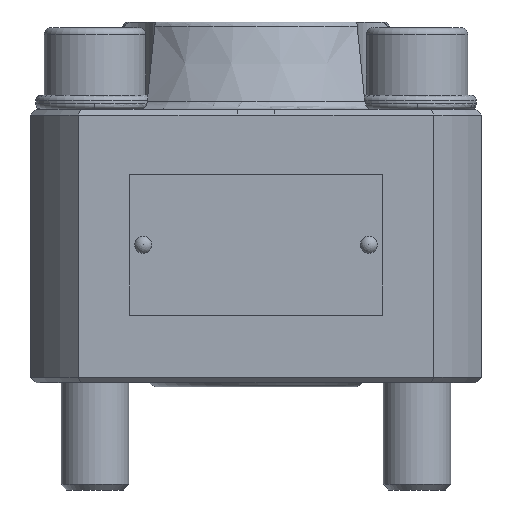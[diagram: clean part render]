
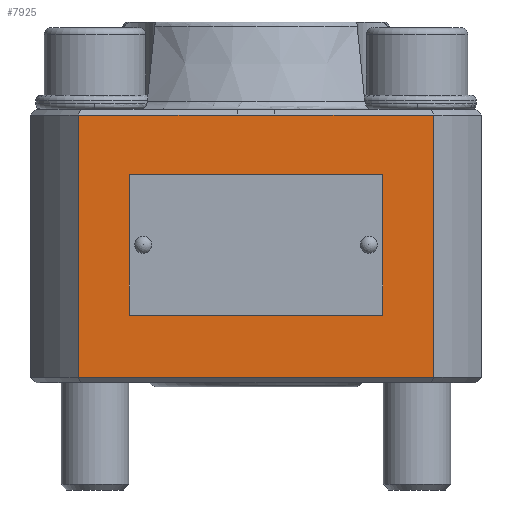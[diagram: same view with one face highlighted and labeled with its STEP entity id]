
A CAD part, left-side view. The second image highlights one B-rep face of the part: STEP entity #7925.
In plain terms, the highlighted planar face has unit normal (-1, 0, 0).
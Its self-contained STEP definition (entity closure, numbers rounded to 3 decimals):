
#423=B_SPLINE_CURVE_WITH_KNOTS('',3,(#14361,#14362,#14363,#14364),
 .UNSPECIFIED.,.F.,.F.,(4,4),(-1.906,-1.244),
 .UNSPECIFIED.);
#539=FACE_BOUND('',#1533,.T.);
#540=FACE_BOUND('',#1534,.T.);
#645=PLANE('',#8593);
#1050=FACE_OUTER_BOUND('',#1532,.T.);
#1532=EDGE_LOOP('',(#6010,#6011,#6012,#6013,#6014,#6015));
#1533=EDGE_LOOP('',(#6016));
#1534=EDGE_LOOP('',(#6017));
#1925=LINE('',#14355,#2247);
#1926=LINE('',#14357,#2248);
#1927=LINE('',#14359,#2249);
#1928=LINE('',#14366,#2250);
#1929=LINE('',#14367,#2251);
#2247=VECTOR('',#10005,10.);
#2248=VECTOR('',#10006,10.);
#2249=VECTOR('',#10007,10.);
#2250=VECTOR('',#10008,10.);
#2251=VECTOR('',#10009,10.);
#2675=CIRCLE('',#8590,1.35);
#2678=CIRCLE('',#8594,1.35);
#3281=VERTEX_POINT('',#14345);
#3284=VERTEX_POINT('',#14353);
#3285=VERTEX_POINT('',#14354);
#3286=VERTEX_POINT('',#14356);
#3287=VERTEX_POINT('',#14358);
#3288=VERTEX_POINT('',#14360);
#3289=VERTEX_POINT('',#14365);
#3290=VERTEX_POINT('',#14368);
#4245=EDGE_CURVE('',#3281,#3281,#2675,.T.);
#4249=EDGE_CURVE('',#3284,#3285,#1925,.T.);
#4250=EDGE_CURVE('',#3284,#3286,#1926,.T.);
#4251=EDGE_CURVE('',#3287,#3286,#1927,.T.);
#4252=EDGE_CURVE('',#3288,#3287,#423,.T.);
#4253=EDGE_CURVE('',#3289,#3288,#1928,.T.);
#4254=EDGE_CURVE('',#3285,#3289,#1929,.T.);
#4255=EDGE_CURVE('',#3290,#3290,#2678,.T.);
#6010=ORIENTED_EDGE('',*,*,#4249,.F.);
#6011=ORIENTED_EDGE('',*,*,#4250,.T.);
#6012=ORIENTED_EDGE('',*,*,#4251,.F.);
#6013=ORIENTED_EDGE('',*,*,#4252,.F.);
#6014=ORIENTED_EDGE('',*,*,#4253,.F.);
#6015=ORIENTED_EDGE('',*,*,#4254,.F.);
#6016=ORIENTED_EDGE('',*,*,#4255,.F.);
#6017=ORIENTED_EDGE('',*,*,#4245,.F.);
#7925=ADVANCED_FACE('',(#1050,#539,#540),#645,.T.);
#8590=AXIS2_PLACEMENT_3D('',#14346,#9996,#9997);
#8593=AXIS2_PLACEMENT_3D('',#14352,#10003,#10004);
#8594=AXIS2_PLACEMENT_3D('',#14369,#10010,#10011);
#9996=DIRECTION('center_axis',(-1.,0.,0.));
#9997=DIRECTION('ref_axis',(0.,0.,-1.));
#10003=DIRECTION('center_axis',(-1.,0.,0.));
#10004=DIRECTION('ref_axis',(0.,0.,1.));
#10005=DIRECTION('',(0.,1.,0.));
#10006=DIRECTION('',(0.,0.,1.));
#10007=DIRECTION('',(0.,-1.,0.));
#10008=DIRECTION('',(0.,-1.,0.));
#10009=DIRECTION('',(0.,0.,1.));
#10010=DIRECTION('center_axis',(-1.,0.,0.));
#10011=DIRECTION('ref_axis',(0.,0.,-1.));
#14345=CARTESIAN_POINT('',(-86.136,-14.864,87.858));
#14346=CARTESIAN_POINT('Origin',(-86.136,-14.864,86.508));
#14352=CARTESIAN_POINT('Origin',(-86.136,-66.364,62.008));
#14353=CARTESIAN_POINT('',(-86.136,-66.364,63.008));
#14354=CARTESIAN_POINT('',(-86.136,-3.364,63.008));
#14355=CARTESIAN_POINT('',(-86.136,-50.614,63.008));
#14356=CARTESIAN_POINT('',(-86.136,-66.364,109.508));
#14357=CARTESIAN_POINT('',(-86.136,-66.364,62.008));
#14358=CARTESIAN_POINT('',(-86.136,-38.17,109.508));
#14359=CARTESIAN_POINT('',(-86.136,-50.614,109.508));
#14360=CARTESIAN_POINT('',(-86.136,-31.558,109.508));
#14361=CARTESIAN_POINT('Ctrl Pts',(-86.136,-31.558,
109.508));
#14362=CARTESIAN_POINT('Ctrl Pts',(-86.136,-33.762,
109.508));
#14363=CARTESIAN_POINT('Ctrl Pts',(-86.136,-35.966,
109.508));
#14364=CARTESIAN_POINT('Ctrl Pts',(-86.136,-38.17,
109.508));
#14365=CARTESIAN_POINT('',(-86.136,-3.364,109.508));
#14366=CARTESIAN_POINT('',(-86.136,-50.614,109.508));
#14367=CARTESIAN_POINT('',(-86.136,-3.364,62.008));
#14368=CARTESIAN_POINT('',(-86.136,-54.864,87.858));
#14369=CARTESIAN_POINT('Origin',(-86.136,-54.864,86.508));
